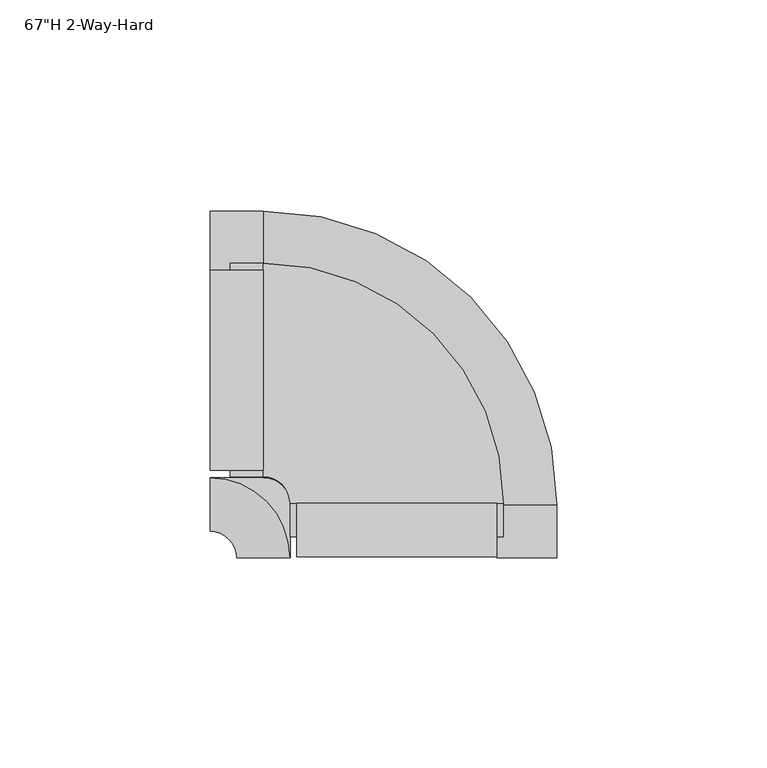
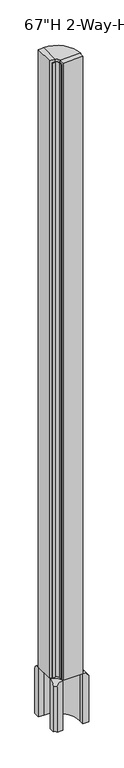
"""IFC4 building model written with IfcOpenShell, lengths in millimetres: furniture geometry."""

from ifc_helpers import new_model, si_unit, point, frame, frame_2d, origin, place, context, project, spatial, polyline, circle_curve, ellipse_curve, trimmed, segment, composite_curve, outline, extrude, source, transform, mapped, element, save
from ifc_brep_helpers import plane_surface, cylinder_surface, revolved_surface, advanced_brep


def furniture_ba981915(model_context):
    return source(origin(), model_context, "Body", "SolidModel", [
        advanced_brep(
        [(-19.0506343, -17.235422, 136.525), (-25.3999996, -10.8860567, 136.525), (-38.1, -10.8860567, 136.525), (-19.0506343, -29.9360586, 136.525), (-19.0506343, -17.235422, 9.525), (-19.0506343, -29.9360586, 9.525), (-31.7499951, -29.9360586, 9.525), (-38.1, -23.5860537, 9.525), (-38.1, -10.8860567, 9.525), (-25.3999996, -10.8860567, 9.525), (-38.1, -23.5860537, 123.8256424), (-31.7499951, -29.9360586, 123.8256423)],
        [
            (0, 1, circle_curve(frame((-25.3999996, -17.235422, 136.525), z_axis=(0.0, 0.0, 1.0), x_axis=(0.0, 1.0, 0.0)), 6.3493653)),
            (1, 2),
            (2, 3, circle_curve(frame((-38.1, -29.9360586, 136.525), z_axis=(0.0, 0.0, -1.0), x_axis=(0.0, 1.0, 0.0)), 19.0493657)),
            (3, 0),
            (4, 5),
            (5, 6),
            (6, 7, circle_curve(frame((-38.1, -29.9360586, 9.525), z_axis=(0.0, 0.0, 1.0), x_axis=(0.0, 1.0, 0.0)), 6.3500049)),
            (7, 8),
            (8, 9),
            (9, 4, circle_curve(frame((-25.3999996, -17.235422, 9.525), z_axis=(0.0, 0.0, -1.0), x_axis=(0.0, 1.0, 0.0)), 6.3493653)),
            (0, 4),
            (9, 1),
            (8, 2),
            (7, 10),
            (10, 2, circle_curve(frame((-38.1, -10.886693, 123.8256393), z_axis=(-1.0, 0.0, 0.0), x_axis=(0.0, 1.0, 0.0)), 12.6993607)),
            (6, 11),
            (11, 10, circle_curve(frame((-38.1, -29.9360586, 123.8256393), z_axis=(0.0, 0.0, 1.0), x_axis=(0.0, 1.0, 0.0)), 6.3500049)),
            (5, 3),
            (3, 11, circle_curve(frame((-19.0506343, -29.9360586, 123.8256393), z_axis=(0.0, -1.0, 0.0), x_axis=(1.0, 0.0, 0.0)), 12.6993607)),
        ],
        [
            plane_surface(frame((-25.3999996, -10.8860567, 136.525), z_axis=(0.0, 0.0, 1.0), x_axis=(-1.0, 0.0, 0.0))),
            plane_surface(frame((-25.3999996, -10.8860567, 9.525), z_axis=(0.0, 0.0, -1.0), x_axis=(1.0, 0.0, 0.0))),
            cylinder_surface(frame((-25.3999996, -17.235422, 9.525), z_axis=(0.0, 0.0, 1.0), x_axis=(0.0, 1.0, 0.0)), 6.3493653),
            plane_surface(frame((-25.3999996, -10.8860567, 136.525), z_axis=(0.0, 1.0, 0.0), x_axis=(0.0, 0.0, -1.0))),
            plane_surface(frame((-38.1, -10.8860567, 136.525), z_axis=(-1.0, 0.0, 0.0), x_axis=(0.0, 0.0, -1.0))),
            revolved_surface(polyline([(-38.1, -23.5860537, 9.525), (-38.1, -23.5860537, 123.8256424)]), (-38.1, -29.9360586, 9.525), (0.0, 0.0, -1.0)),
            plane_surface(frame((-31.7499951, -29.9360586, 136.525), z_axis=(0.0, -1.0, 0.0), x_axis=(0.0, 0.0, -1.0))),
            plane_surface(frame((-19.0506343, -29.9360586, 136.525), z_axis=(1.0, 0.0, 0.0), x_axis=(0.0, 0.0, -1.0))),
            revolved_surface(trimmed(ellipse_curve(frame((-38.1, -10.886693, 123.8256393), z_axis=(-1.0, 0.0, 0.0), x_axis=(0.0, 1.0, 0.0)), 12.6993607, 12.6993607), [point((-38.1, -23.5860537, 123.8256393))], [point((-38.1, -10.886693, 136.525))], True, "CARTESIAN"), (-38.1, -29.9360586, 9.525), (0.0, 0.0, -1.0)),
        ],
        [
            (0, [[1, 2, 3, 4]]),
            (1, [[5, 6, 7, 8, 9, 10]]),
            (2, [[-1, 11, -10, 12]]),
            (3, [[-2, -12, -9, 13]]),
            (4, [[-8, 14, 15, -13]]),
            (5, [[-7, 16, 17, -14]]),
            (6, [[-6, 18, 19, -16]]),
            (7, [[-4, -18, -5, -11]]),
            (8, [[-3, -15, -17, -19]]),
        ],
    ),
        advanced_brep(
        [(-38.0999996, 52.6145776, 123.825), (-38.0999996, 52.6145776, 9.525), (-38.0999996, 38.3270761, 9.525), (-38.0999996, 38.3270761, 136.4092179), (-25.3999996, 52.6145776, 123.825), (-25.3999996, 52.6145776, 9.525), (44.45, -17.235422, 9.525), (44.45, -29.935422, 9.525), (30.1624985, -29.935422, 9.525), (30.1624985, -17.235422, 9.525), (-25.3999996, 38.3270761, 9.525), (-25.3999996, 38.3270761, 136.4092179), (44.45, -17.235422, 123.825), (30.1624985, -17.235422, 136.4092179), (44.45, -29.935422, 123.825), (30.1624985, -29.935422, 136.4092179)],
        [
            (0, 1),
            (1, 2),
            (2, 3),
            (3, 0, circle_curve(frame((-38.0999996, 39.9288313, 123.825), z_axis=(-1.0, 0.0, 0.0), x_axis=(0.0, 1.0, 0.0)), 12.6857463)),
            (0, 4),
            (4, 5),
            (5, 1),
            (5, 6, circle_curve(frame((-25.3999996, -17.235422, 9.525), z_axis=(0.0, 0.0, -1.0), x_axis=(0.0, 1.0, 0.0)), 69.8499996)),
            (6, 7),
            (7, 8),
            (8, 9),
            (9, 10, circle_curve(frame((-25.3999996, -17.235422, 9.525), z_axis=(0.0, 0.0, 1.0), x_axis=(0.0, 1.0, 0.0)), 55.5624981)),
            (10, 2),
            (10, 11),
            (11, 3),
            (11, 4, circle_curve(frame((-25.3999996, 39.9288313, 123.825), z_axis=(-1.0, 0.0, 0.0), x_axis=(0.0, 1.0, 0.0)), 12.6857463)),
            (4, 12, circle_curve(frame((-25.3999996, -17.235422, 123.825), z_axis=(0.0, 0.0, -1.0), x_axis=(0.0, 1.0, 0.0)), 69.8499996)),
            (12, 6),
            (9, 13),
            (13, 11, circle_curve(frame((-25.3999996, -17.235422, 136.4092179), z_axis=(0.0, 0.0, 1.0), x_axis=(0.0, 1.0, 0.0)), 55.5624981)),
            (13, 12, circle_curve(frame((31.7642537, -17.235422, 123.825), z_axis=(0.0, 1.0, 0.0), x_axis=(1.0, 0.0, 0.0)), 12.6857463)),
            (7, 14),
            (14, 15, circle_curve(frame((31.7642537, -29.935422, 123.825), z_axis=(0.0, -1.0, 0.0), x_axis=(1.0, 0.0, 0.0)), 12.6857463)),
            (15, 8),
            (12, 14),
            (15, 13),
        ],
        [
            plane_surface(frame((-38.0999996, 14.5139433, 9.525), z_axis=(-1.0, 0.0, 0.0), x_axis=(0.0, 0.0, 1.0))),
            plane_surface(frame((-38.0999996, 52.6145776, 123.825), z_axis=(0.0, 1.0, 0.0), x_axis=(1.0, 0.0, 0.0))),
            plane_surface(frame((-38.0999996, 52.6145776, 9.525), z_axis=(0.0, 0.0, -1.0), x_axis=(1.0, 0.0, 0.0))),
            plane_surface(frame((-38.0999996, 38.3270761, 9.525), z_axis=(0.0, -1.0, 0.0), x_axis=(1.0, 0.0, 0.0))),
            cylinder_surface(frame((-38.0999996, 39.9288313, 123.825), z_axis=(-1.0, 0.0, 0.0), x_axis=(0.0, 1.0, 0.0)), 12.6857463),
            cylinder_surface(frame((-25.3999996, -17.235422, 9.525), z_axis=(0.0, 0.0, -1.0), x_axis=(0.0, 1.0, 0.0)), 69.8499996),
            revolved_surface(polyline([(-25.3999996, 38.3270761, 9.525), (-25.3999996, 38.3270761, 136.4092179)]), (-25.3999996, -17.235422, 9.525), (0.0, 0.0, -1.0)),
            revolved_surface(trimmed(ellipse_curve(frame((-25.3999996, 39.9288313, 123.825), z_axis=(-1.0, 0.0, 0.0), x_axis=(0.0, 1.0, 0.0)), 12.6857463, 12.6857463), [point((-25.3999996, 38.3270761, 136.4092179))], [point((-25.3999996, 52.6145776, 123.825))], True, "CARTESIAN"), (-25.3999996, -17.235422, 9.525), (0.0, 0.0, -1.0)),
            plane_surface(frame((6.3493657, -29.935422, 9.525), z_axis=(0.0, -1.0, 0.0), x_axis=(0.0, 0.0, 1.0))),
            plane_surface(frame((44.45, -17.235422, 123.825), z_axis=(1.0, 0.0, 0.0), x_axis=(0.0, -1.0, 0.0))),
            plane_surface(frame((30.1624985, -17.235422, 9.525), z_axis=(-1.0, 0.0, 0.0), x_axis=(0.0, -1.0, 0.0))),
            cylinder_surface(frame((31.7642537, -17.235422, 123.825), z_axis=(0.0, 1.0, 0.0), x_axis=(1.0, 0.0, 0.0)), 12.6857463),
        ],
        [
            (0, [[1, 2, 3, 4]]),
            (1, [[-1, 5, 6, 7]]),
            (2, [[-2, -7, 8, 9, 10, 11, 12, 13]]),
            (3, [[-3, -13, 14, 15]]),
            (4, [[-4, -15, 16, -5]]),
            (5, [[-6, 17, 18, -8]]),
            (6, [[-12, 19, 20, -14]]),
            (7, [[-16, -20, 21, -17]]),
            (8, [[-10, 22, 23, 24]]),
            (9, [[-9, -18, 25, -22]]),
            (10, [[-11, -24, 26, -19]]),
            (11, [[-21, -26, -23, -25]]),
        ],
    ),
        extrude(outline(polyline([(30.1624985, -29.9360586), (-17.4624992, -29.9360586), (-17.4624992, -17.210659), (30.1624985, -17.210659), (30.1624985, -29.9360586)])), frame((0.0, 0.0, 136.525), z_axis=(0.0, 0.0, 1.0), x_axis=(1.0, 0.0, 0.0)), (0.0, 0.0, 1.0), 1574.8),
        extrude(outline(polyline([(-38.1, -9.2985567), (-38.1, 38.3264433), (-25.3999996, 38.3264433), (-25.3999996, -9.2985567), (-38.1, -9.2985567)])), frame((0.0, 0.0, 136.525), z_axis=(0.0, 0.0, 1.0), x_axis=(1.0, 0.0, 0.0)), (0.0, 0.0, 1.0), 1574.8),
        extrude(outline(composite_curve([segment(trimmed(circle_curve(frame_2d((-25.3999996, -17.235422)), 6.3493653), [point((-19.0506343, -17.235422))], [point((-25.3999996, -10.8860567))], True, "CARTESIAN"), True, "CONTINUOUS"), segment(polyline([(-25.3999996, -10.8860567), (-33.3375, -10.8860567), (-33.3375, 39.9139433), (-25.3752366, 39.9139433)]), True, "CONTINUOUS"), segment(trimmed(circle_curve(frame_2d((-25.3752366, -17.210659)), 57.1246022), [point((-25.3752366, 39.9139433))], [point((31.7493657, -17.210659))], False, "CARTESIAN"), True, "CONTINUOUS"), segment(polyline([(31.7493657, -17.210659), (31.7493657, -25.1735586), (-19.0506343, -25.1735586), (-19.0506343, -17.235422)]), True, "CONTINUOUS")], self_intersect=False)), frame((0.0, 0.0, 136.525), z_axis=(0.0, 0.0, 1.0), x_axis=(1.0, 0.0, 0.0)), (0.0, 0.0, 1.0), 1568.4499758),
        extrude(outline(composite_curve([segment(polyline([(-25.3999996, -10.886063), (-25.3999996, 39.9139433)]), True, "CONTINUOUS"), segment(trimmed(circle_curve(frame_2d((-25.382294, -17.2177141)), 57.1316601), [point((-25.3999996, 39.9139433))], [point((31.7493657, -17.210659))], False, "CARTESIAN"), True, "CONTINUOUS"), segment(polyline([(31.7493657, -17.210659), (-19.0506343, -17.210659)]), True, "CONTINUOUS"), segment(trimmed(circle_curve(frame_2d((-25.391065, -17.2265072)), 6.3404505), [point((-19.0506343, -17.210659))], [point((-25.3999996, -10.886063))], True, "CARTESIAN"), True, "CONTINUOUS")], self_intersect=False)), frame((0.0, 0.0, 1704.9749758), z_axis=(0.0, 0.0, 1.0), x_axis=(1.0, 0.0, 0.0)), (0.0, 0.0, 1.0), 6.3500242),
    ])


if __name__ == "__main__":
    model = new_model("IFC4")
    model_context = context("Model", 3, world=origin())
    ifc_project = project(units=[si_unit("LENGTHUNIT", "METRE", prefix="MILLI")], contexts=[model_context])
    site = spatial("IfcSite", under=ifc_project)
    building = spatial("IfcBuilding", under=site)
    placement = place(None, origin())
    furniture_shape = furniture_ba981915(model_context)
    element("IfcFurniture", 1, ObjectType="HermanMiller_ActionOffice_A1220_90ConnectorStandardBase : 67\"H 2-Way-Hard", at=placement, inside=building, context=model_context, shape_type="MappedRepresentation", body=[
        mapped(furniture_shape, transform((0.0, 0.0, 0.0), x_axis=(1.0, 0.0, 0.0), y_axis=(0.0, 1.0, 0.0), z_axis=(0.0, 0.0, 1.0))),
    ])
    save(model, "model.ifc")
